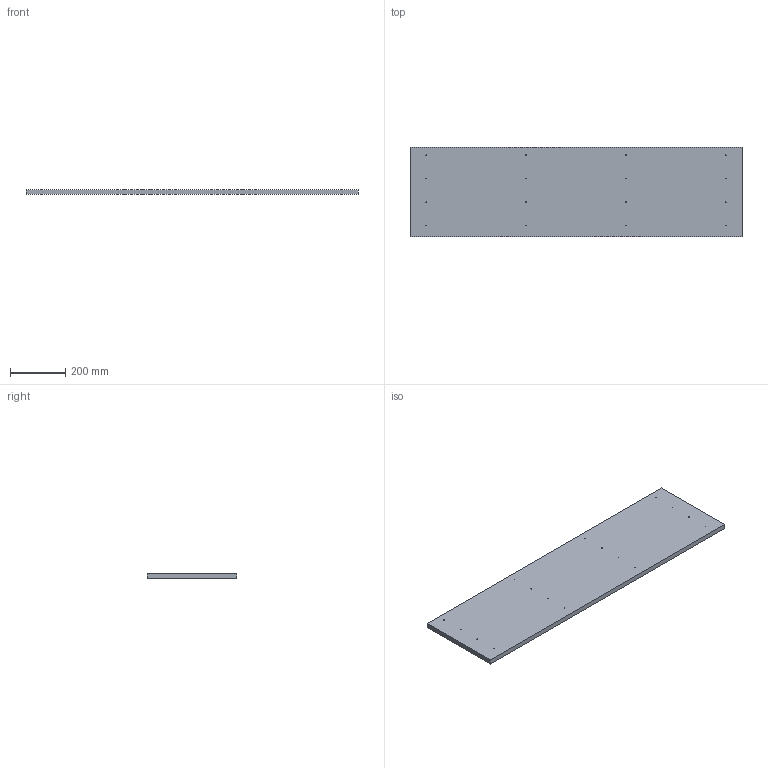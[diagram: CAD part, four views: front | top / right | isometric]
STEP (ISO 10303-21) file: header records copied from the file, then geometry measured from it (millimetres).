
FILE_DESCRIPTION(('Open CASCADE Model'),'2;1');
FILE_NAME('Open CASCADE Shape Model','2026-09-27T09:04:20',('Author'),( 'Open CASCADE'),'Open CASCADE STEP processor 7.9','Open CASCADE 7.9' ,'Unknown');
FILE_SCHEMA(('AUTOMOTIVE_DESIGN { 1 0 10303 214 1 1 1 1 }'));
Length unit declared in the file: millimetre
Products named in the file (1): Open CASCADE STEP translator 7.9 3
Bounding box: 1200 x 323.02 x 18 mm (x, y, z)
Volume: 6975784.7 mm3; surface area: 832177.8 mm2
Topology: 1 solids, 1 shells, 22 faces, 60 edges, 40 vertices
Faces by surface type: cylinder 16, plane 6
Full cylindrical faces by diameter (mm): 2.5 x16
Entity records: 1570 total; most frequent: DIRECTION 258, CARTESIAN_POINT 243, ORIENTED_EDGE 120, PCURVE 120, DEFINITIONAL_REPRESENTATION 120, LINE 116, VECTOR 116, CIRCLE 64
